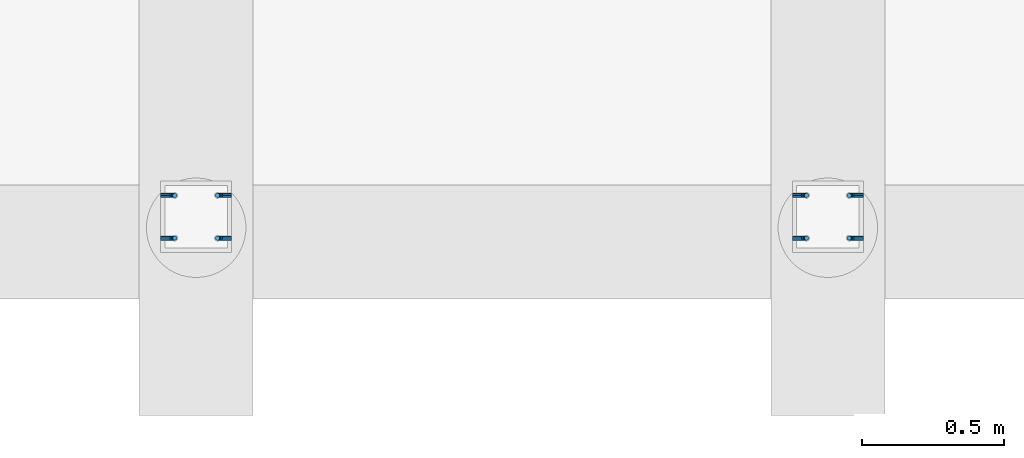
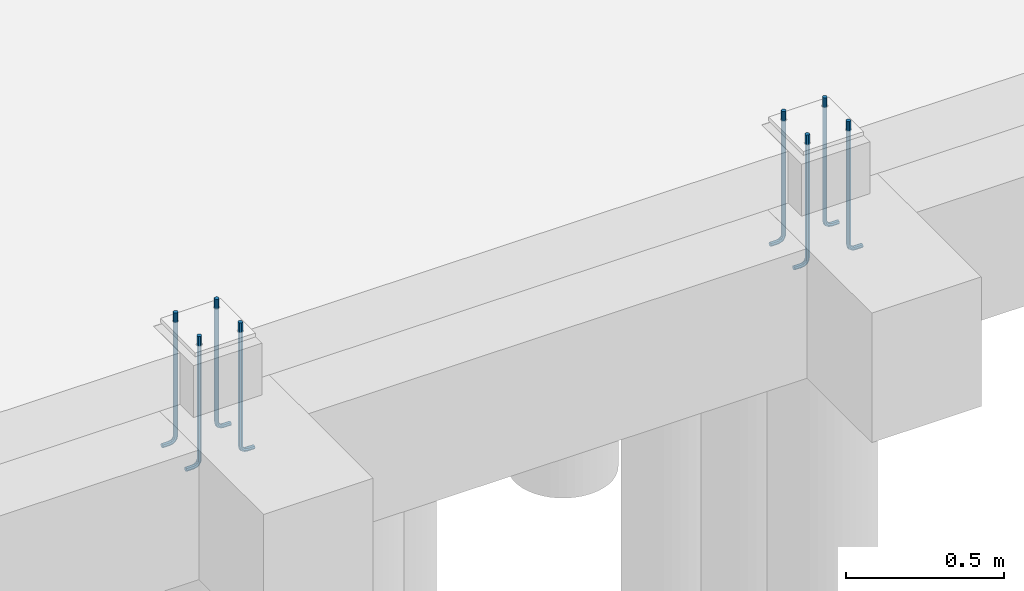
# One storey, part 18 of 22: 8 beams.
"""IFC2X3 building model written with IfcOpenShell, lengths in millimetres."""

from ifc_helpers import new_model, si_unit, frame, origin_with_axes, place, context, subcontext, project, spatial, faceted_brep, material, type_object, element, save


model = new_model("IFC2X3")

# Units and contexts
model_context = context("Model", 3, precision=1e-05, world=origin_with_axes())
body_context = subcontext(model_context, "Body", "Model", "MODEL_VIEW")
ifc_project = project(units=[si_unit("LENGTHUNIT", "METRE", prefix="MILLI"), si_unit("AREAUNIT", "SQUARE_METRE"), si_unit("VOLUMEUNIT", "CUBIC_METRE"), si_unit("MASSUNIT", "GRAM", prefix="KILO"), si_unit("TIMEUNIT", "SECOND"), si_unit("PLANEANGLEUNIT", "RADIAN"), si_unit("SOLIDANGLEUNIT", "STERADIAN"), si_unit("THERMODYNAMICTEMPERATUREUNIT", "DEGREE_CELSIUS"), si_unit("LUMINOUSINTENSITYUNIT", "LUMEN")], contexts=[model_context])

# Site, building, storey
site_placement = place(None, origin_with_axes())
site = spatial("IfcSite", under=ifc_project, at=site_placement, Name="Undefined", CompositionType="ELEMENT")
building_placement = place(site_placement, origin_with_axes())
building = spatial("IfcBuilding", under=site, at=building_placement, Name="Undefined", CompositionType="ELEMENT")
storey_placement = place(building_placement, origin_with_axes())
storey = spatial("IfcBuildingStorey", under=building, at=storey_placement, Name="Undefined", CompositionType="ELEMENT", Elevation=0.0)

# Beams
ifc_material = material(Name="STEEL/S235JR")
beam_type = type_object("IfcBeamType", Name="ANKER_M16", PredefinedType="NOTDEFINED")
beam_1_placement = place(storey_placement, frame((39662.2795366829, 199.621222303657, 0.0), z_axis=(-1.0, 0.0, 0.0), x_axis=(0.0, 0.0, -1.0)))
element("IfcBeam", 1, at=beam_1_placement, inside=storey, type_object=beam_type, material=ifc_material, Name="ANKER", context=body_context, shape_type="Brep", body=[
    faceted_brep([(0.0, -8.00000000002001, 7.27595761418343e-12), (0.0, -5.65685424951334, -5.65685424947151), (477.0, -5.65685424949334, -5.65685424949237), (477.0, -8.0, 0.0), (0.0, -9.09494701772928e-12, -7.99999999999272), (477.0, 0.0, -8.0), (0.0, 5.65685424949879, -5.65685424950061), (477.0, 5.65685424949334, -5.65685424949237), (0.0, 8.00000000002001, -3.63797880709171e-11), (477.0, 8.0, 0.0), (0.0, 5.65685424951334, 5.65685424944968), (477.0, 5.65685424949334, 5.65685424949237), (0.0, 5.45696821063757e-12, 7.99999999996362), (477.0, 0.0, 8.0), (0.0, -5.65685424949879, 5.65685424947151), (477.0, -5.65685424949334, 5.65685424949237), (488.863186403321, 0.0, 5.64026550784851), (487.966503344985, 5.65685424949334, 3.47548110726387), (485.801718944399, 8.0, -1.75077075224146), (483.636934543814, 5.65685424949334, -6.9770226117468), (482.740251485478, 0.0, -9.14180701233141), (483.636934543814, -5.65685424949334, -6.9770226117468), (485.801718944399, -8.0, -1.75077075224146), (487.966503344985, -5.65685424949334, 3.47548110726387), (497.263455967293, -5.65685424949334, -2.73654403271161), (498.920310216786, 0.0, -1.07968978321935), (493.263455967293, -8.0, -6.73654403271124), (489.263455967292, -5.65685424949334, -10.7365440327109), (487.606601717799, 0.0, -12.3933982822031), (489.263455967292, 5.65685424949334, -10.7365440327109), (493.263455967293, 8.0, -6.73654403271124), (497.263455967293, 5.65685424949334, -2.73654403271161), (503.475481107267, -5.65685424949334, -12.0334966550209), (505.640265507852, 0.0, -11.1368135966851), (498.249229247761, -8.0, -14.1982810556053), (493.022977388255, -5.65685424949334, -16.3630654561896), (490.85819298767, 0.0, -17.2597485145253), (493.022977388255, 5.65685424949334, -16.3630654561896), (498.249229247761, 8.0, -14.1982810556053), (503.475481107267, 5.65685424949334, -12.0334966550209), (505.656854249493, -5.65685424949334, -22.9999999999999), (508.000000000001, 0.0, -22.9999999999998), (500.0, -8.0, -23.0), (494.343145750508, -5.65685424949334, -23.0000000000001), (492.000000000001, 0.0, -23.0000000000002), (494.343145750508, 5.65685424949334, -23.0000000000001), (500.000000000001, 8.0, -23.0), (505.656854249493, 5.65685424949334, -22.9999999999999), (494.343145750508, -5.65685424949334, -50.0), (500.0, -8.0, -50.0), (492.0, 0.0, -50.0), (494.343145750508, 5.65685424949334, -50.0), (500.0, 8.0, -50.0), (505.656854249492, 5.65685424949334, -50.0), (508.0, 0.0, -50.0), (505.656854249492, -5.65685424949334, -50.0)], [[[0, 1, 2, 3]], [[1, 4, 5, 2]], [[4, 6, 7, 5]], [[6, 8, 9, 7]], [[8, 10, 11, 9]], [[10, 12, 13, 11]], [[12, 14, 15, 13]], [[14, 0, 3, 15]], [[14, 12, 10, 8, 6, 4, 1, 0]], [[11, 13, 16, 17]], [[9, 11, 17, 18]], [[7, 9, 18, 19]], [[5, 7, 19, 20]], [[2, 5, 20, 21]], [[3, 2, 21, 22]], [[15, 3, 22, 23]], [[13, 15, 23, 16]], [[23, 24, 25, 16]], [[22, 26, 24, 23]], [[21, 27, 26, 22]], [[20, 28, 27, 21]], [[19, 29, 28, 20]], [[18, 30, 29, 19]], [[17, 31, 30, 18]], [[16, 25, 31, 17]], [[24, 32, 33, 25]], [[26, 34, 32, 24]], [[27, 35, 34, 26]], [[28, 36, 35, 27]], [[29, 37, 36, 28]], [[30, 38, 37, 29]], [[31, 39, 38, 30]], [[25, 33, 39, 31]], [[32, 40, 41, 33]], [[34, 42, 40, 32]], [[35, 43, 42, 34]], [[36, 44, 43, 35]], [[37, 45, 44, 36]], [[38, 46, 45, 37]], [[39, 47, 46, 38]], [[33, 41, 47, 39]], [[42, 43, 48, 49]], [[43, 44, 50, 48]], [[44, 45, 51, 50]], [[45, 46, 52, 51]], [[46, 47, 53, 52]], [[47, 41, 54, 53]], [[41, 40, 55, 54]], [[40, 42, 49, 55]], [[50, 51, 52, 53, 54, 55, 49, 48]]]),
])
beam_2_placement = place(storey_placement, frame((39662.2795366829, 349.621222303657, 0.0), z_axis=(-1.0, 0.0, 0.0), x_axis=(0.0, 0.0, -1.0)))
element("IfcBeam", 2, at=beam_2_placement, inside=storey, type_object=beam_type, material=ifc_material, Name="ANKER", context=body_context, shape_type="Brep", body=[
    faceted_brep([(0.0, -8.00000000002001, 7.27595761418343e-12), (0.0, -5.65685424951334, -5.65685424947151), (477.0, -5.65685424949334, -5.65685424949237), (477.0, -8.0, 0.0), (0.0, -9.09494701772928e-12, -7.99999999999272), (477.0, 0.0, -8.0), (0.0, 5.65685424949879, -5.65685424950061), (477.0, 5.65685424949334, -5.65685424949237), (0.0, 8.00000000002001, -3.63797880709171e-11), (477.0, 8.0, 0.0), (0.0, 5.65685424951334, 5.65685424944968), (477.0, 5.65685424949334, 5.65685424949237), (0.0, 5.45696821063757e-12, 7.99999999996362), (477.0, 0.0, 8.0), (0.0, -5.65685424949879, 5.65685424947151), (477.0, -5.65685424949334, 5.65685424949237), (488.863186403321, 0.0, 5.64026550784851), (487.966503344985, 5.65685424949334, 3.47548110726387), (485.801718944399, 8.0, -1.75077075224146), (483.636934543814, 5.65685424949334, -6.9770226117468), (482.740251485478, 0.0, -9.14180701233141), (483.636934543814, -5.65685424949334, -6.9770226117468), (485.801718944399, -8.0, -1.75077075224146), (487.966503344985, -5.65685424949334, 3.47548110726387), (497.263455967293, -5.65685424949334, -2.73654403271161), (498.920310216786, 0.0, -1.07968978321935), (493.263455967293, -8.0, -6.73654403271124), (489.263455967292, -5.65685424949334, -10.7365440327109), (487.606601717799, 0.0, -12.3933982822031), (489.263455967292, 5.65685424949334, -10.7365440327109), (493.263455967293, 8.0, -6.73654403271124), (497.263455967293, 5.65685424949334, -2.73654403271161), (503.475481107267, -5.65685424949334, -12.0334966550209), (505.640265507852, 0.0, -11.1368135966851), (498.249229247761, -8.0, -14.1982810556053), (493.022977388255, -5.65685424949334, -16.3630654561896), (490.85819298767, 0.0, -17.2597485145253), (493.022977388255, 5.65685424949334, -16.3630654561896), (498.249229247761, 8.0, -14.1982810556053), (503.475481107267, 5.65685424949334, -12.0334966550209), (505.656854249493, -5.65685424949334, -22.9999999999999), (508.000000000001, 0.0, -22.9999999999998), (500.0, -8.0, -23.0), (494.343145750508, -5.65685424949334, -23.0000000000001), (492.000000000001, 0.0, -23.0000000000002), (494.343145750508, 5.65685424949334, -23.0000000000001), (500.000000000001, 8.0, -23.0), (505.656854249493, 5.65685424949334, -22.9999999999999), (494.343145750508, -5.65685424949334, -50.0), (500.0, -8.0, -50.0), (492.0, 0.0, -50.0), (494.343145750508, 5.65685424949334, -50.0), (500.0, 8.0, -50.0), (505.656854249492, 5.65685424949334, -50.0), (508.0, 0.0, -50.0), (505.656854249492, -5.65685424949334, -50.0)], [[[0, 1, 2, 3]], [[1, 4, 5, 2]], [[4, 6, 7, 5]], [[6, 8, 9, 7]], [[8, 10, 11, 9]], [[10, 12, 13, 11]], [[12, 14, 15, 13]], [[14, 0, 3, 15]], [[14, 12, 10, 8, 6, 4, 1, 0]], [[11, 13, 16, 17]], [[9, 11, 17, 18]], [[7, 9, 18, 19]], [[5, 7, 19, 20]], [[2, 5, 20, 21]], [[3, 2, 21, 22]], [[15, 3, 22, 23]], [[13, 15, 23, 16]], [[23, 24, 25, 16]], [[22, 26, 24, 23]], [[21, 27, 26, 22]], [[20, 28, 27, 21]], [[19, 29, 28, 20]], [[18, 30, 29, 19]], [[17, 31, 30, 18]], [[16, 25, 31, 17]], [[24, 32, 33, 25]], [[26, 34, 32, 24]], [[27, 35, 34, 26]], [[28, 36, 35, 27]], [[29, 37, 36, 28]], [[30, 38, 37, 29]], [[31, 39, 38, 30]], [[25, 33, 39, 31]], [[32, 40, 41, 33]], [[34, 42, 40, 32]], [[35, 43, 42, 34]], [[36, 44, 43, 35]], [[37, 45, 44, 36]], [[38, 46, 45, 37]], [[39, 47, 46, 38]], [[33, 41, 47, 39]], [[42, 43, 48, 49]], [[43, 44, 50, 48]], [[44, 45, 51, 50]], [[45, 46, 52, 51]], [[46, 47, 53, 52]], [[47, 41, 54, 53]], [[41, 40, 55, 54]], [[40, 42, 49, 55]], [[50, 51, 52, 53, 54, 55, 49, 48]]]),
])
beam_3_placement = place(storey_placement, frame((39512.2795366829, 199.621222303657, 0.0), z_axis=(-1.0, 0.0, 0.0), x_axis=(0.0, 0.0, -1.0)))
element("IfcBeam", 3, at=beam_3_placement, inside=storey, type_object=beam_type, material=ifc_material, Name="ANKER", context=body_context, shape_type="Brep", body=[
    faceted_brep([(0.0, -8.00000000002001, 7.27595761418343e-12), (0.0, -5.65685424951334, -5.65685424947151), (477.0, -5.65685424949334, -5.65685424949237), (477.0, -8.0, 0.0), (0.0, -9.09494701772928e-12, -7.99999999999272), (477.0, 0.0, -8.0), (0.0, 5.65685424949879, -5.65685424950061), (477.0, 5.65685424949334, -5.65685424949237), (0.0, 8.00000000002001, -3.63797880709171e-11), (477.0, 8.0, 0.0), (0.0, 5.65685424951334, 5.65685424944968), (477.0, 5.65685424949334, 5.65685424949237), (0.0, 5.45696821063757e-12, 7.99999999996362), (477.0, 0.0, 8.0), (0.0, -5.65685424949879, 5.65685424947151), (477.0, -5.65685424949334, 5.65685424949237), (488.863186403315, 0.0, -5.64026550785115), (487.966503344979, -5.65685424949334, -3.47548110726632), (485.801718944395, -8.0, 1.75077075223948), (483.636934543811, -5.65685424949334, 6.97702261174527), (482.740251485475, 0.0, 9.14180701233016), (483.636934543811, 5.65685424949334, 6.97702261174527), (485.801718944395, 8.0, 1.75077075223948), (487.966503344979, 5.65685424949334, -3.47548110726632), (497.263455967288, 5.65685424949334, 2.73654403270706), (498.920310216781, 0.0, 1.07968978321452), (493.263455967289, 8.0, 6.73654403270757), (489.263455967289, 5.65685424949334, 10.7365440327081), (487.606601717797, 0.0, 12.3933982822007), (489.263455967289, -5.65685424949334, 10.7365440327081), (493.263455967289, -8.0, 6.73654403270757), (497.263455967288, -5.65685424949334, 2.73654403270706), (503.475481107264, 5.65685424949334, 12.033496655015), (505.640265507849, 0.0, 11.1368135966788), (498.249229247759, 8.0, 14.1982810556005), (493.022977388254, 5.65685424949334, 16.363065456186), (490.858192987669, 0.0, 17.2597485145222), (493.022977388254, -5.65685424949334, 16.363065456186), (498.249229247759, -8.0, 14.1982810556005), (503.475481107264, -5.65685424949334, 12.033496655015), (505.656854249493, 5.65685424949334, 22.9999999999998), (508.000000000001, 0.0, 22.9999999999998), (500.000000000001, 8.0, 23.0), (494.343145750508, 5.65685424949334, 23.0000000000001), (492.000000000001, 0.0, 23.0000000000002), (494.343145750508, -5.65685424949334, 23.0000000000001), (500.0, -8.0, 23.0), (505.656854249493, -5.65685424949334, 22.9999999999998), (505.656854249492, -5.65685424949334, 50.0), (500.0, -8.0, 50.0), (508.0, 0.0, 50.0), (505.656854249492, 5.65685424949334, 50.0), (500.0, 8.0, 50.0), (494.343145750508, 5.65685424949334, 50.0), (492.0, 0.0, 50.0), (494.343145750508, -5.65685424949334, 50.0)], [[[0, 1, 2, 3]], [[1, 4, 5, 2]], [[4, 6, 7, 5]], [[6, 8, 9, 7]], [[8, 10, 11, 9]], [[10, 12, 13, 11]], [[12, 14, 15, 13]], [[14, 0, 3, 15]], [[14, 12, 10, 8, 6, 4, 1, 0]], [[2, 5, 16, 17]], [[3, 2, 17, 18]], [[15, 3, 18, 19]], [[13, 15, 19, 20]], [[11, 13, 20, 21]], [[9, 11, 21, 22]], [[7, 9, 22, 23]], [[5, 7, 23, 16]], [[23, 24, 25, 16]], [[22, 26, 24, 23]], [[21, 27, 26, 22]], [[20, 28, 27, 21]], [[19, 29, 28, 20]], [[18, 30, 29, 19]], [[17, 31, 30, 18]], [[16, 25, 31, 17]], [[24, 32, 33, 25]], [[26, 34, 32, 24]], [[27, 35, 34, 26]], [[28, 36, 35, 27]], [[29, 37, 36, 28]], [[30, 38, 37, 29]], [[31, 39, 38, 30]], [[25, 33, 39, 31]], [[32, 40, 41, 33]], [[34, 42, 40, 32]], [[35, 43, 42, 34]], [[36, 44, 43, 35]], [[37, 45, 44, 36]], [[38, 46, 45, 37]], [[39, 47, 46, 38]], [[33, 41, 47, 39]], [[46, 47, 48, 49]], [[47, 41, 50, 48]], [[41, 40, 51, 50]], [[40, 42, 52, 51]], [[42, 43, 53, 52]], [[43, 44, 54, 53]], [[44, 45, 55, 54]], [[45, 46, 49, 55]], [[50, 51, 52, 53, 54, 55, 49, 48]]]),
])
beam_4_placement = place(storey_placement, frame((39512.2795366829, 349.621222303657, 0.0), z_axis=(1.0, 0.0, 0.0), x_axis=(0.0, 0.0, -1.0)))
element("IfcBeam", 4, at=beam_4_placement, inside=storey, type_object=beam_type, material=ifc_material, Name="ANKER", context=body_context, shape_type="Brep", body=[
    faceted_brep([(0.0, -8.00000000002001, 7.27595761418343e-12), (0.0, -5.65685424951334, -5.65685424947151), (477.0, -5.65685424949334, -5.65685424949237), (477.0, -8.0, 0.0), (0.0, -9.09494701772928e-12, -7.99999999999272), (477.0, 0.0, -8.0), (0.0, 5.65685424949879, -5.65685424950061), (477.0, 5.65685424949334, -5.65685424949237), (0.0, 8.00000000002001, -3.63797880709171e-11), (477.0, 8.0, 0.0), (0.0, 5.65685424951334, 5.65685424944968), (477.0, 5.65685424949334, 5.65685424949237), (0.0, 5.45696821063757e-12, 7.99999999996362), (477.0, 0.0, 8.0), (0.0, -5.65685424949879, 5.65685424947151), (477.0, -5.65685424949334, 5.65685424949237), (488.863186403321, 0.0, 5.64026550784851), (487.966503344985, 5.65685424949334, 3.47548110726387), (485.801718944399, 8.0, -1.75077075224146), (483.636934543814, 5.65685424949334, -6.9770226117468), (482.740251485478, 0.0, -9.14180701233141), (483.636934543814, -5.65685424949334, -6.9770226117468), (485.801718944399, -8.0, -1.75077075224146), (487.966503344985, -5.65685424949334, 3.47548110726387), (497.263455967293, -5.65685424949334, -2.73654403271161), (498.920310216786, 0.0, -1.07968978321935), (493.263455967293, -8.0, -6.73654403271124), (489.263455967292, -5.65685424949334, -10.7365440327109), (487.606601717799, 0.0, -12.3933982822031), (489.263455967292, 5.65685424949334, -10.7365440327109), (493.263455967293, 8.0, -6.73654403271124), (497.263455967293, 5.65685424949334, -2.73654403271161), (503.475481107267, -5.65685424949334, -12.0334966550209), (505.640265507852, 0.0, -11.1368135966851), (498.249229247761, -8.0, -14.1982810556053), (493.022977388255, -5.65685424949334, -16.3630654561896), (490.85819298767, 0.0, -17.2597485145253), (493.022977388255, 5.65685424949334, -16.3630654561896), (498.249229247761, 8.0, -14.1982810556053), (503.475481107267, 5.65685424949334, -12.0334966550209), (505.656854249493, -5.65685424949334, -22.9999999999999), (508.000000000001, 0.0, -22.9999999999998), (500.0, -8.0, -23.0), (494.343145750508, -5.65685424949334, -23.0000000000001), (492.000000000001, 0.0, -23.0000000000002), (494.343145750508, 5.65685424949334, -23.0000000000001), (500.000000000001, 8.0, -23.0), (505.656854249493, 5.65685424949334, -22.9999999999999), (494.343145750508, -5.65685424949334, -50.0), (500.0, -8.0, -50.0), (492.0, 0.0, -50.0), (494.343145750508, 5.65685424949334, -50.0), (500.0, 8.0, -50.0), (505.656854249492, 5.65685424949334, -50.0), (508.0, 0.0, -50.0), (505.656854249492, -5.65685424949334, -50.0)], [[[0, 1, 2, 3]], [[1, 4, 5, 2]], [[4, 6, 7, 5]], [[6, 8, 9, 7]], [[8, 10, 11, 9]], [[10, 12, 13, 11]], [[12, 14, 15, 13]], [[14, 0, 3, 15]], [[14, 12, 10, 8, 6, 4, 1, 0]], [[11, 13, 16, 17]], [[9, 11, 17, 18]], [[7, 9, 18, 19]], [[5, 7, 19, 20]], [[2, 5, 20, 21]], [[3, 2, 21, 22]], [[15, 3, 22, 23]], [[13, 15, 23, 16]], [[23, 24, 25, 16]], [[22, 26, 24, 23]], [[21, 27, 26, 22]], [[20, 28, 27, 21]], [[19, 29, 28, 20]], [[18, 30, 29, 19]], [[17, 31, 30, 18]], [[16, 25, 31, 17]], [[24, 32, 33, 25]], [[26, 34, 32, 24]], [[27, 35, 34, 26]], [[28, 36, 35, 27]], [[29, 37, 36, 28]], [[30, 38, 37, 29]], [[31, 39, 38, 30]], [[25, 33, 39, 31]], [[32, 40, 41, 33]], [[34, 42, 40, 32]], [[35, 43, 42, 34]], [[36, 44, 43, 35]], [[37, 45, 44, 36]], [[38, 46, 45, 37]], [[39, 47, 46, 38]], [[33, 41, 47, 39]], [[42, 43, 48, 49]], [[43, 44, 50, 48]], [[44, 45, 51, 50]], [[45, 46, 52, 51]], [[46, 47, 53, 52]], [[47, 41, 54, 53]], [[41, 40, 55, 54]], [[40, 42, 49, 55]], [[50, 51, 52, 53, 54, 55, 49, 48]]]),
])
beam_5_placement = place(storey_placement, frame((41882.2859170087, 199.621222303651, 0.0), z_axis=(-1.0, 0.0, 0.0), x_axis=(0.0, 0.0, -1.0)))
element("IfcBeam", 5, at=beam_5_placement, inside=storey, type_object=beam_type, material=ifc_material, Name="ANKER", context=body_context, shape_type="Brep", body=[
    faceted_brep([(0.0, -8.00000000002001, 7.27595761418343e-12), (0.0, -5.65685424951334, -5.65685424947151), (477.0, -5.65685424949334, -5.65685424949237), (477.0, -8.0, 0.0), (0.0, -9.09494701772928e-12, -7.99999999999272), (477.0, 0.0, -8.0), (0.0, 5.65685424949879, -5.65685424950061), (477.0, 5.65685424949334, -5.65685424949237), (0.0, 8.00000000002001, -3.63797880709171e-11), (477.0, 8.0, 0.0), (0.0, 5.65685424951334, 5.65685424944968), (477.0, 5.65685424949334, 5.65685424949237), (0.0, 5.45696821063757e-12, 7.99999999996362), (477.0, 0.0, 8.0), (0.0, -5.65685424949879, 5.65685424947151), (477.0, -5.65685424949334, 5.65685424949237), (488.863186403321, 0.0, 5.64026550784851), (487.966503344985, 5.65685424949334, 3.47548110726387), (485.801718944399, 8.0, -1.75077075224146), (483.636934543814, 5.65685424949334, -6.9770226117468), (482.740251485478, 0.0, -9.14180701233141), (483.636934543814, -5.65685424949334, -6.9770226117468), (485.801718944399, -8.0, -1.75077075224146), (487.966503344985, -5.65685424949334, 3.47548110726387), (497.263455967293, -5.65685424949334, -2.73654403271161), (498.920310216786, 0.0, -1.07968978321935), (493.263455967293, -8.0, -6.73654403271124), (489.263455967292, -5.65685424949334, -10.7365440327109), (487.606601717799, 0.0, -12.3933982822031), (489.263455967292, 5.65685424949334, -10.7365440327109), (493.263455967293, 8.0, -6.73654403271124), (497.263455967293, 5.65685424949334, -2.73654403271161), (503.475481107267, -5.65685424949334, -12.0334966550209), (505.640265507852, 0.0, -11.1368135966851), (498.249229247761, -8.0, -14.1982810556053), (493.022977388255, -5.65685424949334, -16.3630654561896), (490.85819298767, 0.0, -17.2597485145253), (493.022977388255, 5.65685424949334, -16.3630654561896), (498.249229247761, 8.0, -14.1982810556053), (503.475481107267, 5.65685424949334, -12.0334966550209), (505.656854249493, -5.65685424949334, -22.9999999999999), (508.000000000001, 0.0, -22.9999999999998), (500.0, -8.0, -23.0), (494.343145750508, -5.65685424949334, -23.0000000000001), (492.000000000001, 0.0, -23.0000000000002), (494.343145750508, 5.65685424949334, -23.0000000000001), (500.000000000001, 8.0, -23.0), (505.656854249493, 5.65685424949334, -22.9999999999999), (494.343145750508, -5.65685424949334, -50.0), (500.0, -8.0, -50.0), (492.0, 0.0, -50.0), (494.343145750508, 5.65685424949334, -50.0), (500.0, 8.0, -50.0), (505.656854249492, 5.65685424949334, -50.0), (508.0, 0.0, -50.0), (505.656854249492, -5.65685424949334, -50.0)], [[[0, 1, 2, 3]], [[1, 4, 5, 2]], [[4, 6, 7, 5]], [[6, 8, 9, 7]], [[8, 10, 11, 9]], [[10, 12, 13, 11]], [[12, 14, 15, 13]], [[14, 0, 3, 15]], [[14, 12, 10, 8, 6, 4, 1, 0]], [[11, 13, 16, 17]], [[9, 11, 17, 18]], [[7, 9, 18, 19]], [[5, 7, 19, 20]], [[2, 5, 20, 21]], [[3, 2, 21, 22]], [[15, 3, 22, 23]], [[13, 15, 23, 16]], [[23, 24, 25, 16]], [[22, 26, 24, 23]], [[21, 27, 26, 22]], [[20, 28, 27, 21]], [[19, 29, 28, 20]], [[18, 30, 29, 19]], [[17, 31, 30, 18]], [[16, 25, 31, 17]], [[24, 32, 33, 25]], [[26, 34, 32, 24]], [[27, 35, 34, 26]], [[28, 36, 35, 27]], [[29, 37, 36, 28]], [[30, 38, 37, 29]], [[31, 39, 38, 30]], [[25, 33, 39, 31]], [[32, 40, 41, 33]], [[34, 42, 40, 32]], [[35, 43, 42, 34]], [[36, 44, 43, 35]], [[37, 45, 44, 36]], [[38, 46, 45, 37]], [[39, 47, 46, 38]], [[33, 41, 47, 39]], [[42, 43, 48, 49]], [[43, 44, 50, 48]], [[44, 45, 51, 50]], [[45, 46, 52, 51]], [[46, 47, 53, 52]], [[47, 41, 54, 53]], [[41, 40, 55, 54]], [[40, 42, 49, 55]], [[50, 51, 52, 53, 54, 55, 49, 48]]]),
])
beam_6_placement = place(storey_placement, frame((41882.2859170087, 349.621222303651, 0.0), z_axis=(-1.0, 0.0, 0.0), x_axis=(0.0, 0.0, -1.0)))
element("IfcBeam", 6, at=beam_6_placement, inside=storey, type_object=beam_type, material=ifc_material, Name="ANKER", context=body_context, shape_type="Brep", body=[
    faceted_brep([(0.0, -8.00000000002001, 7.27595761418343e-12), (0.0, -5.65685424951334, -5.65685424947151), (477.0, -5.65685424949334, -5.65685424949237), (477.0, -8.0, 0.0), (0.0, -9.09494701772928e-12, -7.99999999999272), (477.0, 0.0, -8.0), (0.0, 5.65685424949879, -5.65685424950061), (477.0, 5.65685424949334, -5.65685424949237), (0.0, 8.00000000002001, -3.63797880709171e-11), (477.0, 8.0, 0.0), (0.0, 5.65685424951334, 5.65685424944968), (477.0, 5.65685424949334, 5.65685424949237), (0.0, 5.45696821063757e-12, 7.99999999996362), (477.0, 0.0, 8.0), (0.0, -5.65685424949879, 5.65685424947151), (477.0, -5.65685424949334, 5.65685424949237), (488.863186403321, 0.0, 5.64026550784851), (487.966503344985, 5.65685424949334, 3.47548110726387), (485.801718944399, 8.0, -1.75077075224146), (483.636934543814, 5.65685424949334, -6.9770226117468), (482.740251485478, 0.0, -9.14180701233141), (483.636934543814, -5.65685424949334, -6.9770226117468), (485.801718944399, -8.0, -1.75077075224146), (487.966503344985, -5.65685424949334, 3.47548110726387), (497.263455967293, -5.65685424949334, -2.73654403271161), (498.920310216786, 0.0, -1.07968978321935), (493.263455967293, -8.0, -6.73654403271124), (489.263455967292, -5.65685424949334, -10.7365440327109), (487.606601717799, 0.0, -12.3933982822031), (489.263455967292, 5.65685424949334, -10.7365440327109), (493.263455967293, 8.0, -6.73654403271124), (497.263455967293, 5.65685424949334, -2.73654403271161), (503.475481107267, -5.65685424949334, -12.0334966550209), (505.640265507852, 0.0, -11.1368135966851), (498.249229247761, -8.0, -14.1982810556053), (493.022977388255, -5.65685424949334, -16.3630654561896), (490.85819298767, 0.0, -17.2597485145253), (493.022977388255, 5.65685424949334, -16.3630654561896), (498.249229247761, 8.0, -14.1982810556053), (503.475481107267, 5.65685424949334, -12.0334966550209), (505.656854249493, -5.65685424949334, -22.9999999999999), (508.000000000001, 0.0, -22.9999999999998), (500.0, -8.0, -23.0), (494.343145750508, -5.65685424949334, -23.0000000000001), (492.000000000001, 0.0, -23.0000000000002), (494.343145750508, 5.65685424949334, -23.0000000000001), (500.000000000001, 8.0, -23.0), (505.656854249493, 5.65685424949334, -22.9999999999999), (494.343145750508, -5.65685424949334, -50.0), (500.0, -8.0, -50.0), (492.0, 0.0, -50.0), (494.343145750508, 5.65685424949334, -50.0), (500.0, 8.0, -50.0), (505.656854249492, 5.65685424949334, -50.0), (508.0, 0.0, -50.0), (505.656854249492, -5.65685424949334, -50.0)], [[[0, 1, 2, 3]], [[1, 4, 5, 2]], [[4, 6, 7, 5]], [[6, 8, 9, 7]], [[8, 10, 11, 9]], [[10, 12, 13, 11]], [[12, 14, 15, 13]], [[14, 0, 3, 15]], [[14, 12, 10, 8, 6, 4, 1, 0]], [[11, 13, 16, 17]], [[9, 11, 17, 18]], [[7, 9, 18, 19]], [[5, 7, 19, 20]], [[2, 5, 20, 21]], [[3, 2, 21, 22]], [[15, 3, 22, 23]], [[13, 15, 23, 16]], [[23, 24, 25, 16]], [[22, 26, 24, 23]], [[21, 27, 26, 22]], [[20, 28, 27, 21]], [[19, 29, 28, 20]], [[18, 30, 29, 19]], [[17, 31, 30, 18]], [[16, 25, 31, 17]], [[24, 32, 33, 25]], [[26, 34, 32, 24]], [[27, 35, 34, 26]], [[28, 36, 35, 27]], [[29, 37, 36, 28]], [[30, 38, 37, 29]], [[31, 39, 38, 30]], [[25, 33, 39, 31]], [[32, 40, 41, 33]], [[34, 42, 40, 32]], [[35, 43, 42, 34]], [[36, 44, 43, 35]], [[37, 45, 44, 36]], [[38, 46, 45, 37]], [[39, 47, 46, 38]], [[33, 41, 47, 39]], [[42, 43, 48, 49]], [[43, 44, 50, 48]], [[44, 45, 51, 50]], [[45, 46, 52, 51]], [[46, 47, 53, 52]], [[47, 41, 54, 53]], [[41, 40, 55, 54]], [[40, 42, 49, 55]], [[50, 51, 52, 53, 54, 55, 49, 48]]]),
])
beam_7_placement = place(storey_placement, frame((41732.2859170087, 199.621222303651, 0.0), z_axis=(-1.0, 0.0, 0.0), x_axis=(0.0, 0.0, -1.0)))
element("IfcBeam", 7, at=beam_7_placement, inside=storey, type_object=beam_type, material=ifc_material, Name="ANKER", context=body_context, shape_type="Brep", body=[
    faceted_brep([(0.0, -8.00000000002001, 7.27595761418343e-12), (0.0, -5.65685424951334, -5.65685424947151), (477.0, -5.65685424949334, -5.65685424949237), (477.0, -8.0, 0.0), (0.0, -9.09494701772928e-12, -7.99999999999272), (477.0, 0.0, -8.0), (0.0, 5.65685424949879, -5.65685424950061), (477.0, 5.65685424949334, -5.65685424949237), (0.0, 8.00000000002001, -3.63797880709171e-11), (477.0, 8.0, 0.0), (0.0, 5.65685424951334, 5.65685424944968), (477.0, 5.65685424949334, 5.65685424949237), (0.0, 5.45696821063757e-12, 7.99999999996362), (477.0, 0.0, 8.0), (0.0, -5.65685424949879, 5.65685424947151), (477.0, -5.65685424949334, 5.65685424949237), (488.863186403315, 0.0, -5.64026550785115), (487.966503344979, -5.65685424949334, -3.47548110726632), (485.801718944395, -8.0, 1.75077075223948), (483.636934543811, -5.65685424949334, 6.97702261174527), (482.740251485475, 0.0, 9.14180701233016), (483.636934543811, 5.65685424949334, 6.97702261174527), (485.801718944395, 8.0, 1.75077075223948), (487.966503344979, 5.65685424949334, -3.47548110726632), (497.263455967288, 5.65685424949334, 2.73654403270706), (498.920310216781, 0.0, 1.07968978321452), (493.263455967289, 8.0, 6.73654403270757), (489.263455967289, 5.65685424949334, 10.7365440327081), (487.606601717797, 0.0, 12.3933982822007), (489.263455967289, -5.65685424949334, 10.7365440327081), (493.263455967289, -8.0, 6.73654403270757), (497.263455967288, -5.65685424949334, 2.73654403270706), (503.475481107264, 5.65685424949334, 12.033496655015), (505.640265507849, 0.0, 11.1368135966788), (498.249229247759, 8.0, 14.1982810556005), (493.022977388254, 5.65685424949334, 16.363065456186), (490.858192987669, 0.0, 17.2597485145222), (493.022977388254, -5.65685424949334, 16.363065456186), (498.249229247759, -8.0, 14.1982810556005), (503.475481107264, -5.65685424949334, 12.033496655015), (505.656854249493, 5.65685424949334, 22.9999999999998), (508.000000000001, 0.0, 22.9999999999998), (500.000000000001, 8.0, 23.0), (494.343145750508, 5.65685424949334, 23.0000000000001), (492.000000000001, 0.0, 23.0000000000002), (494.343145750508, -5.65685424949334, 23.0000000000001), (500.0, -8.0, 23.0), (505.656854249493, -5.65685424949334, 22.9999999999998), (505.656854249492, -5.65685424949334, 50.0), (500.0, -8.0, 50.0), (508.0, 0.0, 50.0), (505.656854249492, 5.65685424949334, 50.0), (500.0, 8.0, 50.0), (494.343145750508, 5.65685424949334, 50.0), (492.0, 0.0, 50.0), (494.343145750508, -5.65685424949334, 50.0)], [[[0, 1, 2, 3]], [[1, 4, 5, 2]], [[4, 6, 7, 5]], [[6, 8, 9, 7]], [[8, 10, 11, 9]], [[10, 12, 13, 11]], [[12, 14, 15, 13]], [[14, 0, 3, 15]], [[14, 12, 10, 8, 6, 4, 1, 0]], [[2, 5, 16, 17]], [[3, 2, 17, 18]], [[15, 3, 18, 19]], [[13, 15, 19, 20]], [[11, 13, 20, 21]], [[9, 11, 21, 22]], [[7, 9, 22, 23]], [[5, 7, 23, 16]], [[23, 24, 25, 16]], [[22, 26, 24, 23]], [[21, 27, 26, 22]], [[20, 28, 27, 21]], [[19, 29, 28, 20]], [[18, 30, 29, 19]], [[17, 31, 30, 18]], [[16, 25, 31, 17]], [[24, 32, 33, 25]], [[26, 34, 32, 24]], [[27, 35, 34, 26]], [[28, 36, 35, 27]], [[29, 37, 36, 28]], [[30, 38, 37, 29]], [[31, 39, 38, 30]], [[25, 33, 39, 31]], [[32, 40, 41, 33]], [[34, 42, 40, 32]], [[35, 43, 42, 34]], [[36, 44, 43, 35]], [[37, 45, 44, 36]], [[38, 46, 45, 37]], [[39, 47, 46, 38]], [[33, 41, 47, 39]], [[46, 47, 48, 49]], [[47, 41, 50, 48]], [[41, 40, 51, 50]], [[40, 42, 52, 51]], [[42, 43, 53, 52]], [[43, 44, 54, 53]], [[44, 45, 55, 54]], [[45, 46, 49, 55]], [[50, 51, 52, 53, 54, 55, 49, 48]]]),
])
beam_8_placement = place(storey_placement, frame((41732.2859170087, 349.621222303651, 0.0), z_axis=(1.0, 0.0, 0.0), x_axis=(0.0, 0.0, -1.0)))
element("IfcBeam", 8, at=beam_8_placement, inside=storey, type_object=beam_type, material=ifc_material, Name="ANKER", context=body_context, shape_type="Brep", body=[
    faceted_brep([(0.0, -8.00000000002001, 7.27595761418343e-12), (0.0, -5.65685424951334, -5.65685424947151), (477.0, -5.65685424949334, -5.65685424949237), (477.0, -8.0, 0.0), (0.0, -9.09494701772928e-12, -7.99999999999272), (477.0, 0.0, -8.0), (0.0, 5.65685424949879, -5.65685424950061), (477.0, 5.65685424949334, -5.65685424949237), (0.0, 8.00000000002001, -3.63797880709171e-11), (477.0, 8.0, 0.0), (0.0, 5.65685424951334, 5.65685424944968), (477.0, 5.65685424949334, 5.65685424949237), (0.0, 5.45696821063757e-12, 7.99999999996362), (477.0, 0.0, 8.0), (0.0, -5.65685424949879, 5.65685424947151), (477.0, -5.65685424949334, 5.65685424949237), (488.863186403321, 0.0, 5.64026550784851), (487.966503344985, 5.65685424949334, 3.47548110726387), (485.801718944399, 8.0, -1.75077075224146), (483.636934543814, 5.65685424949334, -6.9770226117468), (482.740251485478, 0.0, -9.14180701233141), (483.636934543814, -5.65685424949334, -6.9770226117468), (485.801718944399, -8.0, -1.75077075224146), (487.966503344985, -5.65685424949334, 3.47548110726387), (497.263455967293, -5.65685424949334, -2.73654403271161), (498.920310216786, 0.0, -1.07968978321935), (493.263455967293, -8.0, -6.73654403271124), (489.263455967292, -5.65685424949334, -10.7365440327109), (487.606601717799, 0.0, -12.3933982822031), (489.263455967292, 5.65685424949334, -10.7365440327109), (493.263455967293, 8.0, -6.73654403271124), (497.263455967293, 5.65685424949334, -2.73654403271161), (503.475481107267, -5.65685424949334, -12.0334966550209), (505.640265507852, 0.0, -11.1368135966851), (498.249229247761, -8.0, -14.1982810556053), (493.022977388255, -5.65685424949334, -16.3630654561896), (490.85819298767, 0.0, -17.2597485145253), (493.022977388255, 5.65685424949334, -16.3630654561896), (498.249229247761, 8.0, -14.1982810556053), (503.475481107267, 5.65685424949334, -12.0334966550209), (505.656854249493, -5.65685424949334, -22.9999999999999), (508.000000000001, 0.0, -22.9999999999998), (500.0, -8.0, -23.0), (494.343145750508, -5.65685424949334, -23.0000000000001), (492.000000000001, 0.0, -23.0000000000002), (494.343145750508, 5.65685424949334, -23.0000000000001), (500.000000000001, 8.0, -23.0), (505.656854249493, 5.65685424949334, -22.9999999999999), (494.343145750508, -5.65685424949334, -50.0), (500.0, -8.0, -50.0), (492.0, 0.0, -50.0), (494.343145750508, 5.65685424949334, -50.0), (500.0, 8.0, -50.0), (505.656854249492, 5.65685424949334, -50.0), (508.0, 0.0, -50.0), (505.656854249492, -5.65685424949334, -50.0)], [[[0, 1, 2, 3]], [[1, 4, 5, 2]], [[4, 6, 7, 5]], [[6, 8, 9, 7]], [[8, 10, 11, 9]], [[10, 12, 13, 11]], [[12, 14, 15, 13]], [[14, 0, 3, 15]], [[14, 12, 10, 8, 6, 4, 1, 0]], [[11, 13, 16, 17]], [[9, 11, 17, 18]], [[7, 9, 18, 19]], [[5, 7, 19, 20]], [[2, 5, 20, 21]], [[3, 2, 21, 22]], [[15, 3, 22, 23]], [[13, 15, 23, 16]], [[23, 24, 25, 16]], [[22, 26, 24, 23]], [[21, 27, 26, 22]], [[20, 28, 27, 21]], [[19, 29, 28, 20]], [[18, 30, 29, 19]], [[17, 31, 30, 18]], [[16, 25, 31, 17]], [[24, 32, 33, 25]], [[26, 34, 32, 24]], [[27, 35, 34, 26]], [[28, 36, 35, 27]], [[29, 37, 36, 28]], [[30, 38, 37, 29]], [[31, 39, 38, 30]], [[25, 33, 39, 31]], [[32, 40, 41, 33]], [[34, 42, 40, 32]], [[35, 43, 42, 34]], [[36, 44, 43, 35]], [[37, 45, 44, 36]], [[38, 46, 45, 37]], [[39, 47, 46, 38]], [[33, 41, 47, 39]], [[42, 43, 48, 49]], [[43, 44, 50, 48]], [[44, 45, 51, 50]], [[45, 46, 52, 51]], [[46, 47, 53, 52]], [[47, 41, 54, 53]], [[41, 40, 55, 54]], [[40, 42, 49, 55]], [[50, 51, 52, 53, 54, 55, 49, 48]]]),
])

save(model, "model.ifc")
